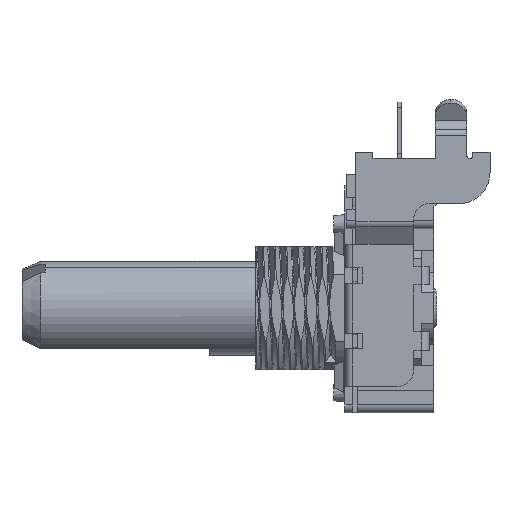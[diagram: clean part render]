
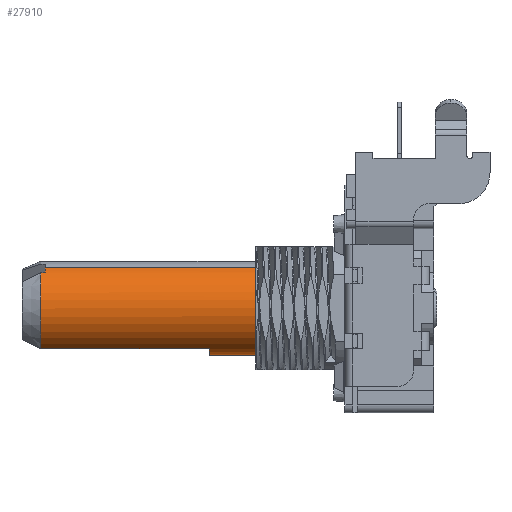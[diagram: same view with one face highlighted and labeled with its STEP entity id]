
A CAD part, left-side view. The second image highlights one B-rep face of the part: STEP entity #27910.
In plain terms, the highlighted cylindrical face has radius 3 mm (diameter 6 mm), a partial arc.
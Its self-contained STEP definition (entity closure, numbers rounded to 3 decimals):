
#2 = ORIENTED_EDGE ( 'NONE', *, *, #5360, .F. ) ;
#1474 = CARTESIAN_POINT ( 'NONE',  ( 0.55, 22.6, -2.949 ) ) ;
#2346 = CIRCLE ( 'NONE', #14233, 3. ) ;
#2579 = VERTEX_POINT ( 'NONE', #1474 ) ;
#2632 = CARTESIAN_POINT ( 'NONE',  ( 0., 11.8, 0. ) ) ;
#2709 = VERTEX_POINT ( 'NONE', #19328 ) ;
#2994 = DIRECTION ( 'NONE',  ( 0., -1., 0. ) ) ;
#3387 = EDGE_LOOP ( 'NONE', ( #2, #27172, #26320, #22717, #28195, #26397, #12134, #25773 ) ) ;
#3457 = CARTESIAN_POINT ( 'NONE',  ( 2.598, 22.6, 1.5 ) ) ;
#5326 = CARTESIAN_POINT ( 'NONE',  ( 2.598, 11.8, 1.5 ) ) ;
#5360 = EDGE_CURVE ( 'NONE', #2709, #28408, #2346, .T. ) ;
#5968 = LINE ( 'NONE', #18796, #15207 ) ;
#6554 = CARTESIAN_POINT ( 'NONE',  ( 0.5, 22.3, -2.958 ) ) ;
#7488 = CIRCLE ( 'NONE', #10319, 3. ) ;
#7975 = DIRECTION ( 'NONE',  ( 0., 1., 0. ) ) ;
#8030 = AXIS2_PLACEMENT_3D ( 'NONE', #26174, #33997, #18184 ) ;
#8237 = DIRECTION ( 'NONE',  ( 0., -1., 0. ) ) ;
#10319 = AXIS2_PLACEMENT_3D ( 'NONE', #19777, #24748, #11616 ) ;
#11616 = DIRECTION ( 'NONE',  ( 0., 0., 1. ) ) ;
#11684 = CARTESIAN_POINT ( 'NONE',  ( 0., 22.6, 0. ) ) ;
#12134 = ORIENTED_EDGE ( 'NONE', *, *, #18000, .F. ) ;
#12573 = CARTESIAN_POINT ( 'NONE',  ( 0.55, 22.6, -2.949 ) ) ;
#12795 = VERTEX_POINT ( 'NONE', #19960 ) ;
#13451 = DIRECTION ( 'NONE',  ( 0., 1., 0. ) ) ;
#13627 = DIRECTION ( 'NONE',  ( 0., 0., 1. ) ) ;
#13967 = VERTEX_POINT ( 'NONE', #14538 ) ;
#14155 = AXIS2_PLACEMENT_3D ( 'NONE', #11684, #2994, #33325 ) ;
#14233 = AXIS2_PLACEMENT_3D ( 'NONE', #2632, #13451, #13627 ) ;
#14538 = CARTESIAN_POINT ( 'NONE',  ( 0., 2.5, -3. ) ) ;
#14602 = EDGE_CURVE ( 'NONE', #22307, #13967, #20145, .T. ) ;
#15207 = VECTOR ( 'NONE', #7975, 1000. ) ;
#15488 = EDGE_CURVE ( 'NONE', #2579, #28893, #29603, .T. ) ;
#15966 = CIRCLE ( 'NONE', #18216, 3. ) ;
#16219 = CARTESIAN_POINT ( 'NONE',  ( 0., 22.6, 3. ) ) ;
#17539 = VECTOR ( 'NONE', #8237, 1000. ) ;
#18000 = EDGE_CURVE ( 'NONE', #34540, #2579, #19337, .T. ) ;
#18184 = DIRECTION ( 'NONE',  ( 0., 0., 1. ) ) ;
#18216 = AXIS2_PLACEMENT_3D ( 'NONE', #21589, #18585, #32249 ) ;
#18585 = DIRECTION ( 'NONE',  ( 0., 1., 0. ) ) ;
#18796 = CARTESIAN_POINT ( 'NONE',  ( 2.598, 11.8, 1.5 ) ) ;
#19328 = CARTESIAN_POINT ( 'NONE',  ( 0., 11.8, 3. ) ) ;
#19337 = CIRCLE ( 'NONE', #8030, 3. ) ;
#19777 = CARTESIAN_POINT ( 'NONE',  ( 0., 2.5, 0. ) ) ;
#19848 = CYLINDRICAL_SURFACE ( 'NONE', #14155, 3. ) ;
#19856 = EDGE_CURVE ( 'NONE', #28893, #22307, #15966, .T. ) ;
#19960 = CARTESIAN_POINT ( 'NONE',  ( 0., 2.5, 3. ) ) ;
#20145 = LINE ( 'NONE', #33809, #26194 ) ;
#20216 = CARTESIAN_POINT ( 'NONE',  ( 0.533, 22.5, -2.952 ) ) ;
#20932 = EDGE_CURVE ( 'NONE', #12795, #13967, #7488, .T. ) ;
#21589 = CARTESIAN_POINT ( 'NONE',  ( 0., 22.3, 0. ) ) ;
#22307 = VERTEX_POINT ( 'NONE', #24282 ) ;
#22690 = CARTESIAN_POINT ( 'NONE',  ( 0.517, 22.4, -2.955 ) ) ;
#22717 = ORIENTED_EDGE ( 'NONE', *, *, #14602, .F. ) ;
#24282 = CARTESIAN_POINT ( 'NONE',  ( 0., 22.3, -3. ) ) ;
#24687 = EDGE_CURVE ( 'NONE', #28408, #34540, #5968, .T. ) ;
#24748 = DIRECTION ( 'NONE',  ( 0., 1., 0. ) ) ;
#25773 = ORIENTED_EDGE ( 'NONE', *, *, #24687, .F. ) ;
#26174 = CARTESIAN_POINT ( 'NONE',  ( 0., 22.6, 0. ) ) ;
#26194 = VECTOR ( 'NONE', #33984, 1000. ) ;
#26320 = ORIENTED_EDGE ( 'NONE', *, *, #20932, .T. ) ;
#26397 = ORIENTED_EDGE ( 'NONE', *, *, #15488, .F. ) ;
#27152 = EDGE_CURVE ( 'NONE', #2709, #12795, #32193, .T. ) ;
#27172 = ORIENTED_EDGE ( 'NONE', *, *, #27152, .T. ) ;
#27820 = FACE_OUTER_BOUND ( 'NONE', #3387, .T. ) ;
#27910 = ADVANCED_FACE ( 'NONE', ( #27820 ), #19848, .T. ) ;
#28195 = ORIENTED_EDGE ( 'NONE', *, *, #19856, .F. ) ;
#28408 = VERTEX_POINT ( 'NONE', #5326 ) ;
#28893 = VERTEX_POINT ( 'NONE', #34574 ) ;
#29603 =( BOUNDED_CURVE ( )  B_SPLINE_CURVE ( 3, ( #12573, #20216, #22690, #6554 ),
 .UNSPECIFIED., .F., .T. ) 
 B_SPLINE_CURVE_WITH_KNOTS ( ( 4, 4 ),
 ( 4.528, 4.545 ),
 .UNSPECIFIED. ) 
 CURVE ( )  GEOMETRIC_REPRESENTATION_ITEM ( )  RATIONAL_B_SPLINE_CURVE ( ( 1., 1., 1., 1. ) ) 
 REPRESENTATION_ITEM ( '' )  );
#32193 = LINE ( 'NONE', #16219, #17539 ) ;
#32249 = DIRECTION ( 'NONE',  ( 0., 0., -1. ) ) ;
#33325 = DIRECTION ( 'NONE',  ( 0., 0., -1. ) ) ;
#33809 = CARTESIAN_POINT ( 'NONE',  ( 0., 22.6, -3. ) ) ;
#33984 = DIRECTION ( 'NONE',  ( 0., -1., 0. ) ) ;
#33997 = DIRECTION ( 'NONE',  ( 0., 1., 0. ) ) ;
#34540 = VERTEX_POINT ( 'NONE', #3457 ) ;
#34574 = CARTESIAN_POINT ( 'NONE',  ( 0.5, 22.3, -2.958 ) ) ;
